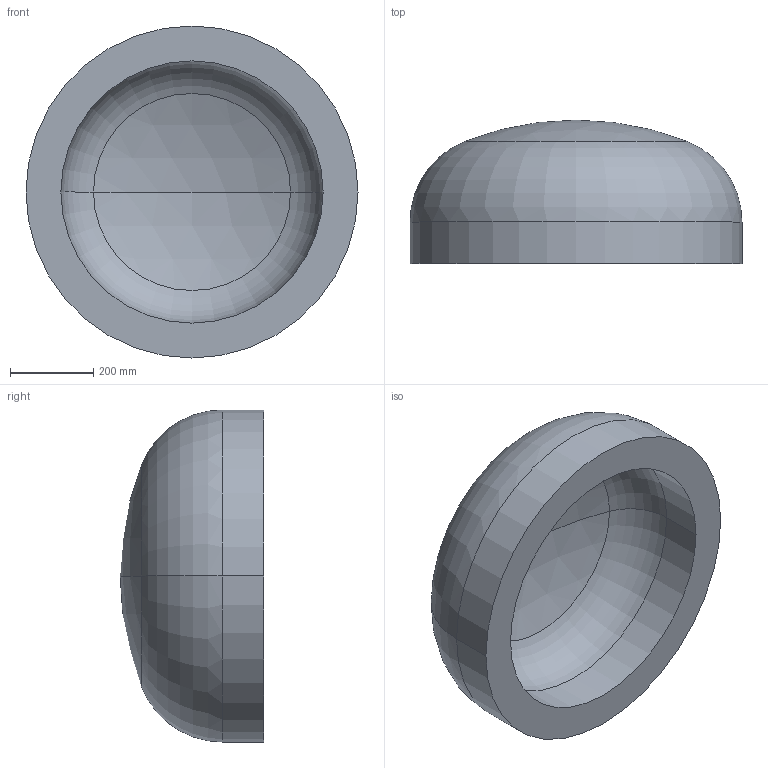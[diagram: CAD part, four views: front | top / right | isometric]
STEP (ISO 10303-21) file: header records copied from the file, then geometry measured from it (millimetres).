
FILE_DESCRIPTION (( 'STEP AP203' ), '1' );
FILE_NAME ('DIN 28013 Korbbogenform_-_Boden DIN 28013 - 800 x 100 - I - s=84.step', '2016-07-01T08:21:21', ( '' ), ( '' ), 'SwSTEP 2.0', 'SolidWorks 2013', '' );
FILE_SCHEMA (( 'CONFIG_CONTROL_DESIGN' ));
Length unit declared in the file: millimetre
Products named in the file (1): DIN 28013 Korbbogenform_-_Boden DIN 28013 - 800 x 100 - I - s=84
Bounding box: 800 x 345.73 x 800 mm (x, y, z)
Volume: 70429862.9 mm3; surface area: 1880627.3 mm2
Topology: 1 solids, 1 shells, 13 faces, 24 edges, 14 vertices
Faces by surface type: torus 4, cylinder 4, sphere 4, plane 1
Entity records: 407 total; most frequent: DIRECTION 72, CARTESIAN_POINT 52, ORIENTED_EDGE 48, AXIS2_PLACEMENT_3D 34, EDGE_CURVE 24, CIRCLE 20, VERTEX_POINT 14, EDGE_LOOP 14
